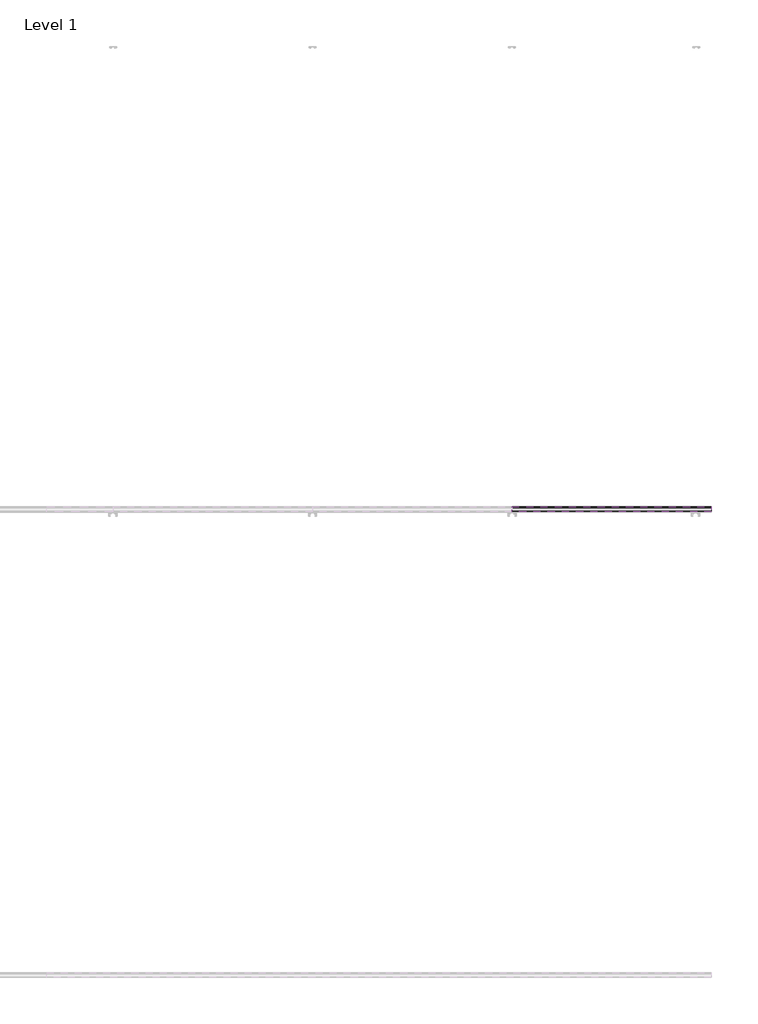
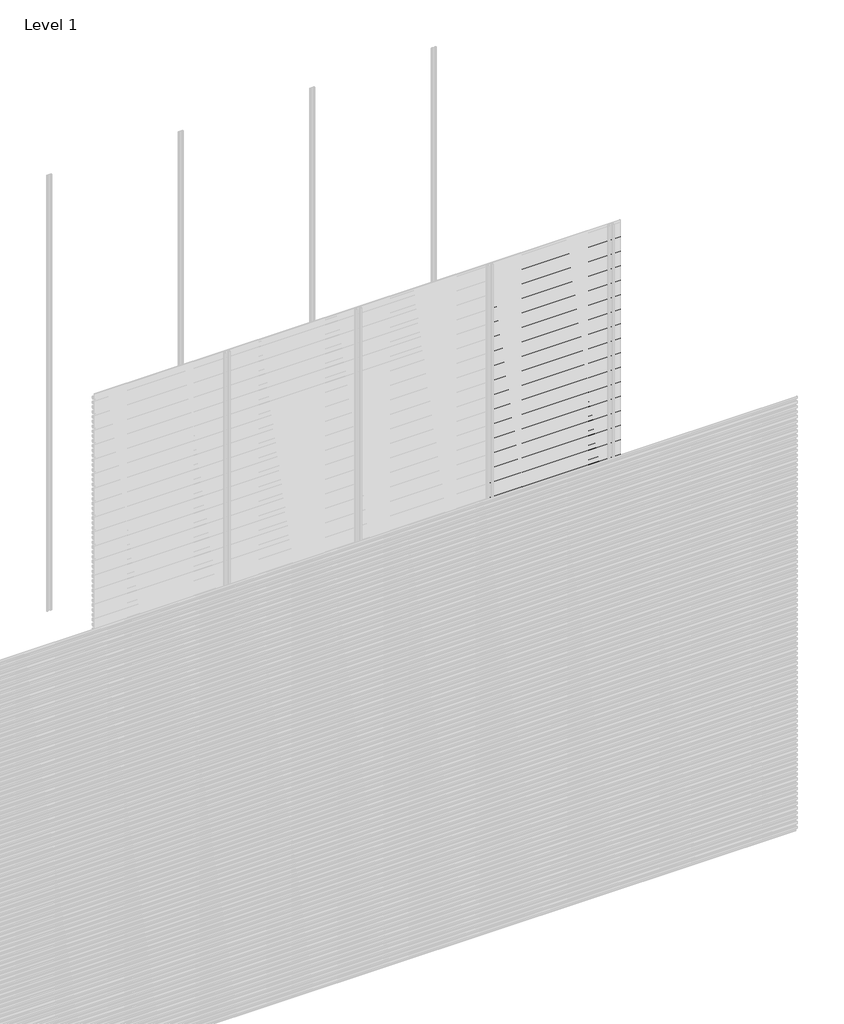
# One storey, part 87 of 96: 76 proxies.
"""IFC4 building model written with IfcOpenShell, lengths in millimetres."""

import ifcopenshell
import ifcopenshell.guid

model = None  # the IFC model being written
_history = None  # IfcOwnerHistory: only IFC2X3 demands one
_inside = {}  # id of a spatial element -> (the spatial element, [elements in it])
_under = {}  # id of a project, library or spatial element -> (it, [spatial elements below it])
_declared = {}  # id of a project -> (the project, [libraries it declares])
_typed = {}  # id of a type object -> (the type object, [elements of that type])
_made_of = {}  # id of a material, layer set ... -> (it, [elements and type objects made of it])


def new_model(schema):
    """Start an empty IFC model of exactly this schema.

    Asked for "IFC4X3", IfcOpenShell would pick the latest addendum, in which some entities
    have other attributes; the version numbers below select the first issue.
    IFC2X3 requires an IfcOwnerHistory on every rooted entity: one is made here for all.
    """
    global model, _history
    if schema == "IFC4X3":
        model = ifcopenshell.file(schema_version=(4, 3, 0, 0))
    else:
        model = ifcopenshell.file(schema=schema)
    _inside.clear()
    _under.clear()
    _declared.clear()
    _typed.clear()
    _made_of.clear()
    _history = None
    if model.schema == "IFC2X3":
        org = make("IfcOrganization", Name="unknown")
        user = make(
            "IfcPersonAndOrganization",
            ThePerson=make("IfcPerson", FamilyName="unknown"),
            TheOrganization=org,
        )
        app = make(
            "IfcApplication",
            ApplicationDeveloper=org,
            Version="unknown",
            ApplicationFullName="unknown",
            ApplicationIdentifier="unknown",
        )
        _history = make(
            "IfcOwnerHistory",
            OwningUser=user,
            OwningApplication=app,
            ChangeAction="ADDED",
            CreationDate=0,
        )
    return model


def make(cls, **values):
    """One entity of the class cls with the attributes given. An attribute that is None is left unset."""
    return model.create_entity(
        cls, **{name: value for name, value in values.items() if value is not None}
    )


def rooted(cls, **values):
    """An entity with a GlobalId (a new one), such as an element, a storey or a relation."""
    return make(cls, GlobalId=ifcopenshell.guid.new(), OwnerHistory=_history, **values)


def si_unit(unit_type, name, prefix=None):
    """IfcSIUnit, for example si_unit("LENGTHUNIT", "METRE", prefix="MILLI")."""
    return make("IfcSIUnit", UnitType=unit_type, Prefix=prefix, Name=name)


def assignment(units):
    """IfcUnitAssignment: the units of a project."""
    return None if units is None else make("IfcUnitAssignment", Units=units)


def point(xyz):
    """IfcCartesianPoint."""
    return None if xyz is None else make("IfcCartesianPoint", Coordinates=xyz)


def direction(xyz):
    """IfcDirection."""
    return None if xyz is None else make("IfcDirection", DirectionRatios=xyz)


def frame(location, z_axis=None, x_axis=None):
    """IfcAxis2Placement3D, a coordinate frame: its origin and axes. An axis left out is left unset."""
    return make(
        "IfcAxis2Placement3D",
        Location=point(location),
        Axis=direction(z_axis),
        RefDirection=direction(x_axis),
    )


def origin():
    """The frame at (0, 0, 0) with its axes left unset."""
    return frame((0.0, 0.0, 0.0))


def place(relative_to, where):
    """IfcLocalPlacement: puts the frame where relative to a parent placement (None: the world)."""
    return make(
        "IfcLocalPlacement", PlacementRelTo=relative_to, RelativePlacement=where
    )


def context(
    kind, dimensions, precision=None, world=None, true_north=None, identifier=None
):
    """IfcGeometricRepresentationContext, for example the 3D "Model" context."""
    return make(
        "IfcGeometricRepresentationContext",
        ContextIdentifier=identifier,
        ContextType=kind,
        CoordinateSpaceDimension=dimensions,
        Precision=precision,
        WorldCoordinateSystem=world,
        TrueNorth=true_north,
    )


def project(units=None, contexts=None):
    """IfcProject with its units and contexts."""
    return rooted(
        "IfcProject",
        Name="project",
        RepresentationContexts=contexts,
        UnitsInContext=assignment(units),
    )


def spatial(cls, under=None, at=None, **own):
    """A site, building, storey or space (cls), placed at a placement, below another one or the project."""
    s = rooted(cls, ObjectPlacement=at, **own)
    if under is not None:
        _under.setdefault(under.id(), (under, []))[1].append(s)
    return s


def polyline(points):
    """IfcPolyline through the points."""
    return make("IfcPolyline", Points=[point(p) for p in points])


def outline(outer, holes=None, kind="AREA"):
    """IfcArbitraryClosedProfileDef: a profile drawn as a closed curve; with holes, ...WithVoids."""
    if holes is None:
        return make("IfcArbitraryClosedProfileDef", ProfileType=kind, OuterCurve=outer)
    return make(
        "IfcArbitraryProfileDefWithVoids",
        ProfileType=kind,
        OuterCurve=outer,
        InnerCurves=holes,
    )


def extrude(swept, where, along, depth):
    """IfcExtrudedAreaSolid: the profile swept, set in the frame where, extruded along a direction by depth."""
    return make(
        "IfcExtrudedAreaSolid",
        SweptArea=swept,
        Position=where,
        ExtrudedDirection=direction(along),
        Depth=depth,
    )


def shape(context_of_items, identifier, shape_type, items):
    """IfcShapeRepresentation: the items that make up one representation, for example the "Body"."""
    return make(
        "IfcShapeRepresentation",
        ContextOfItems=context_of_items,
        RepresentationIdentifier=identifier,
        RepresentationType=shape_type,
        Items=items,
    )


def made_of(thing, what):
    """Note that an element or type object is made of a material, layer set ...; save() writes the relation."""
    if what is not None:
        _made_of.setdefault(what.id(), (what, []))[1].append(thing)
    return thing


def element(
    cls,
    number,
    at=None,
    inside=None,
    cuts=None,
    type_object=None,
    material=None,
    context=None,
    identifier="Body",
    shape_type=None,
    held_by="IfcProductDefinitionShape",
    body=None,
    shapes=None,
    **own,
):
    """One element of the class cls, such as IfcWall. Its Tag is "e" and its number.

    at: its placement. inside: the storey or other place that contains it. cuts: it is an
    opening in that element (IfcRelVoidsElement). A single representation is given by context,
    identifier, shape_type and body (its items); several are given by shapes. held_by: the class
    of the entity that holds the representations. save() writes the other relations.
    """
    e = rooted(cls, Tag="e%d" % number, ObjectPlacement=at, **own)
    if body is not None:
        shapes = [shape(context, identifier, shape_type, body)]
    if shapes is not None:
        e.Representation = make(held_by, Representations=shapes)
    if inside is not None:
        _inside.setdefault(inside.id(), (inside, []))[1].append(e)
    if cuts is not None:
        rooted(
            "IfcRelVoidsElement", RelatingBuildingElement=cuts, RelatedOpeningElement=e
        )
    if type_object is not None:
        _typed.setdefault(type_object.id(), (type_object, []))[1].append(e)
    return made_of(e, material)


def aggregate(whole, parts):
    """IfcRelAggregates: a whole, such as a stair, and the parts it consists of."""
    return rooted("IfcRelAggregates", RelatingObject=whole, RelatedObjects=parts)


def save(model, path):
    """Write the relations noted so far, then the file.

    IfcRelAggregates (storeys below a building ...), IfcRelContainedInSpatialStructure (elements
    in a storey), IfcRelDefinesByType, IfcRelAssociatesMaterial and IfcRelDeclares: one each for
    every whole, place, type object, material and project.
    """
    for whole, parts in _under.values():
        aggregate(whole, parts)
    for where, things in _inside.values():
        rooted(
            "IfcRelContainedInSpatialStructure",
            RelatedElements=things,
            RelatingStructure=where,
        )
    for kind, things in _typed.values():
        rooted("IfcRelDefinesByType", RelatedObjects=things, RelatingType=kind)
    for what, things in _made_of.values():
        rooted("IfcRelAssociatesMaterial", RelatedObjects=things, RelatingMaterial=what)
    for by, libraries in _declared.values():
        rooted("IfcRelDeclares", RelatingContext=by, RelatedDefinitions=libraries)
    model.write(path)


model = new_model("IFC4")

# Units and contexts
model_context = context("Model", 3, world=origin())
ifc_project = project(units=[si_unit("LENGTHUNIT", "METRE", prefix="MILLI")], contexts=[model_context])

# Site, building, storey
site = spatial("IfcSite", under=ifc_project)
building = spatial("IfcBuilding", under=site)
storey = spatial("IfcBuildingStorey", under=building, Name="Level 1", Elevation=0.0)

# Proxies
placement = place(None, origin())
element("IfcBuildingElementProxy", 1, Name="Wall Sweeps", at=placement, inside=storey, context=model_context, shape_type="SweptSolid", body=[
    extrude(outline(polyline([(-5977.6, 2871.8655033), (-5977.6, 2857.5779188), (-5982.4114965, 2854.8), (-5982.4114965, 2856.0701706), (-5978.85, 2858.1264016), (-5978.85, 2871.1437382), (-5998.0, 2882.2000799), (-5998.0, 2897.1), (-5996.75, 2897.1), (-5996.75, 2882.9217609), (-5977.6, 2871.8655033)])), frame((5142.8571429, 0.0, 0.0), z_axis=(1.0, 0.0, 0.0), x_axis=(0.0, 1.0, 0.0)), (0.0, 0.0, 1.0), 857.1428571),
])
element("IfcBuildingElementProxy", 2, Name="Wall Sweeps", at=placement, inside=storey, context=model_context, shape_type="SweptSolid", body=[
    extrude(outline(polyline([(-5977.6, 2838.5655033), (-5977.6, 2824.2779188), (-5982.4114965, 2821.5), (-5982.4114965, 2822.7701706), (-5978.85, 2824.8264016), (-5978.85, 2837.8437382), (-5998.0, 2848.9000799), (-5998.0, 2863.8), (-5996.75, 2863.8), (-5996.75, 2849.6217609), (-5977.6, 2838.5655033)])), frame((5142.8571429, 0.0, 0.0), z_axis=(1.0, 0.0, 0.0), x_axis=(0.0, 1.0, 0.0)), (0.0, 0.0, 1.0), 857.1428571),
])
element("IfcBuildingElementProxy", 3, Name="Wall Sweeps", at=placement, inside=storey, context=model_context, shape_type="SweptSolid", body=[
    extrude(outline(polyline([(-5977.6, 2805.2655033), (-5977.6, 2790.9779188), (-5982.4114965, 2788.2), (-5982.4114965, 2789.4701706), (-5978.85, 2791.5264016), (-5978.85, 2804.5437382), (-5998.0, 2815.6000799), (-5998.0, 2830.5), (-5996.75, 2830.5), (-5996.75, 2816.3217609), (-5977.6, 2805.2655033)])), frame((5142.8571429, 0.0, 0.0), z_axis=(1.0, 0.0, 0.0), x_axis=(0.0, 1.0, 0.0)), (0.0, 0.0, 1.0), 857.1428571),
])
element("IfcBuildingElementProxy", 4, Name="Wall Sweeps", at=placement, inside=storey, context=model_context, shape_type="SweptSolid", body=[
    extrude(outline(polyline([(-5977.6, 2771.9655033), (-5977.6, 2757.6779188), (-5982.4114965, 2754.9), (-5982.4114965, 2756.1701706), (-5978.85, 2758.2264016), (-5978.85, 2771.2437382), (-5998.0, 2782.3000799), (-5998.0, 2797.2), (-5996.75, 2797.2), (-5996.75, 2783.0217609), (-5977.6, 2771.9655033)])), frame((5142.8571429, 0.0, 0.0), z_axis=(1.0, 0.0, 0.0), x_axis=(0.0, 1.0, 0.0)), (0.0, 0.0, 1.0), 857.1428571),
])
element("IfcBuildingElementProxy", 5, Name="Wall Sweeps", at=placement, inside=storey, context=model_context, shape_type="SweptSolid", body=[
    extrude(outline(polyline([(-5977.6, 2738.6655033), (-5977.6, 2724.3779188), (-5982.4114965, 2721.6), (-5982.4114965, 2722.8701706), (-5978.85, 2724.9264016), (-5978.85, 2737.9437382), (-5998.0, 2749.0000799), (-5998.0, 2763.9), (-5996.75, 2763.9), (-5996.75, 2749.7217609), (-5977.6, 2738.6655033)])), frame((5142.8571429, 0.0, 0.0), z_axis=(1.0, 0.0, 0.0), x_axis=(0.0, 1.0, 0.0)), (0.0, 0.0, 1.0), 857.1428571),
])
element("IfcBuildingElementProxy", 6, Name="Wall Sweeps", at=placement, inside=storey, context=model_context, shape_type="SweptSolid", body=[
    extrude(outline(polyline([(-5977.6, 2705.3655033), (-5977.6, 2691.0779188), (-5982.4114965, 2688.3), (-5982.4114965, 2689.5701706), (-5978.85, 2691.6264016), (-5978.85, 2704.6437382), (-5998.0, 2715.7000799), (-5998.0, 2730.6), (-5996.75, 2730.6), (-5996.75, 2716.4217609), (-5977.6, 2705.3655033)])), frame((5142.8571429, 0.0, 0.0), z_axis=(1.0, 0.0, 0.0), x_axis=(0.0, 1.0, 0.0)), (0.0, 0.0, 1.0), 857.1428571),
])
element("IfcBuildingElementProxy", 7, Name="Wall Sweeps", at=placement, inside=storey, context=model_context, shape_type="SweptSolid", body=[
    extrude(outline(polyline([(-5977.6, 2672.0655033), (-5977.6, 2657.7779188), (-5982.4114965, 2655.0), (-5982.4114965, 2656.2701706), (-5978.85, 2658.3264016), (-5978.85, 2671.3437382), (-5998.0, 2682.4000799), (-5998.0, 2697.3), (-5996.75, 2697.3), (-5996.75, 2683.1217609), (-5977.6, 2672.0655033)])), frame((5142.8571429, 0.0, 0.0), z_axis=(1.0, 0.0, 0.0), x_axis=(0.0, 1.0, 0.0)), (0.0, 0.0, 1.0), 857.1428571),
])
element("IfcBuildingElementProxy", 8, Name="Wall Sweeps", at=placement, inside=storey, context=model_context, shape_type="SweptSolid", body=[
    extrude(outline(polyline([(-5977.6, 2638.7655033), (-5977.6, 2624.4779188), (-5982.4114965, 2621.7), (-5982.4114965, 2622.9701706), (-5978.85, 2625.0264016), (-5978.85, 2638.0437382), (-5998.0, 2649.1000799), (-5998.0, 2664.0), (-5996.75, 2664.0), (-5996.75, 2649.8217609), (-5977.6, 2638.7655033)])), frame((5142.8571429, 0.0, 0.0), z_axis=(1.0, 0.0, 0.0), x_axis=(0.0, 1.0, 0.0)), (0.0, 0.0, 1.0), 857.1428571),
])
element("IfcBuildingElementProxy", 9, Name="Wall Sweeps", at=placement, inside=storey, context=model_context, shape_type="SweptSolid", body=[
    extrude(outline(polyline([(-5977.6, 2605.4655033), (-5977.6, 2591.1779188), (-5982.4114965, 2588.4), (-5982.4114965, 2589.6701706), (-5978.85, 2591.7264016), (-5978.85, 2604.7437382), (-5998.0, 2615.8000799), (-5998.0, 2630.7), (-5996.75, 2630.7), (-5996.75, 2616.5217609), (-5977.6, 2605.4655033)])), frame((5142.8571429, 0.0, 0.0), z_axis=(1.0, 0.0, 0.0), x_axis=(0.0, 1.0, 0.0)), (0.0, 0.0, 1.0), 857.1428571),
])
element("IfcBuildingElementProxy", 10, Name="Wall Sweeps", at=placement, inside=storey, context=model_context, shape_type="SweptSolid", body=[
    extrude(outline(polyline([(-5977.6, 2572.1655033), (-5977.6, 2557.8779188), (-5982.4114965, 2555.1), (-5982.4114965, 2556.3701706), (-5978.85, 2558.4264016), (-5978.85, 2571.4437382), (-5998.0, 2582.5000799), (-5998.0, 2597.4), (-5996.75, 2597.4), (-5996.75, 2583.2217609), (-5977.6, 2572.1655033)])), frame((5142.8571429, 0.0, 0.0), z_axis=(1.0, 0.0, 0.0), x_axis=(0.0, 1.0, 0.0)), (0.0, 0.0, 1.0), 857.1428571),
])
element("IfcBuildingElementProxy", 11, Name="Wall Sweeps", at=placement, inside=storey, context=model_context, shape_type="SweptSolid", body=[
    extrude(outline(polyline([(-5977.6, 2538.8655033), (-5977.6, 2524.5779188), (-5982.4114965, 2521.8), (-5982.4114965, 2523.0701706), (-5978.85, 2525.1264016), (-5978.85, 2538.1437382), (-5998.0, 2549.2000799), (-5998.0, 2564.1), (-5996.75, 2564.1), (-5996.75, 2549.9217609), (-5977.6, 2538.8655033)])), frame((5142.8571429, 0.0, 0.0), z_axis=(1.0, 0.0, 0.0), x_axis=(0.0, 1.0, 0.0)), (0.0, 0.0, 1.0), 857.1428571),
])
element("IfcBuildingElementProxy", 12, Name="Wall Sweeps", at=placement, inside=storey, context=model_context, shape_type="SweptSolid", body=[
    extrude(outline(polyline([(-5977.6, 2505.5655033), (-5977.6, 2491.2779188), (-5982.4114965, 2488.5), (-5982.4114965, 2489.7701706), (-5978.85, 2491.8264016), (-5978.85, 2504.8437382), (-5998.0, 2515.9000799), (-5998.0, 2530.8), (-5996.75, 2530.8), (-5996.75, 2516.6217609), (-5977.6, 2505.5655033)])), frame((5142.8571429, 0.0, 0.0), z_axis=(1.0, 0.0, 0.0), x_axis=(0.0, 1.0, 0.0)), (0.0, 0.0, 1.0), 857.1428571),
])
element("IfcBuildingElementProxy", 13, Name="Wall Sweeps", at=placement, inside=storey, context=model_context, shape_type="SweptSolid", body=[
    extrude(outline(polyline([(-5977.6, 2472.2655033), (-5977.6, 2457.9779188), (-5982.4114965, 2455.2), (-5982.4114965, 2456.4701706), (-5978.85, 2458.5264016), (-5978.85, 2471.5437382), (-5998.0, 2482.6000799), (-5998.0, 2497.5), (-5996.75, 2497.5), (-5996.75, 2483.3217609), (-5977.6, 2472.2655033)])), frame((5142.8571429, 0.0, 0.0), z_axis=(1.0, 0.0, 0.0), x_axis=(0.0, 1.0, 0.0)), (0.0, 0.0, 1.0), 857.1428571),
])
element("IfcBuildingElementProxy", 14, Name="Wall Sweeps", at=placement, inside=storey, context=model_context, shape_type="SweptSolid", body=[
    extrude(outline(polyline([(-5977.6, 2438.9655033), (-5977.6, 2424.6779188), (-5982.4114965, 2421.9), (-5982.4114965, 2423.1701706), (-5978.85, 2425.2264016), (-5978.85, 2438.2437382), (-5998.0, 2449.3000799), (-5998.0, 2464.2), (-5996.75, 2464.2), (-5996.75, 2450.0217609), (-5977.6, 2438.9655033)])), frame((5142.8571429, 0.0, 0.0), z_axis=(1.0, 0.0, 0.0), x_axis=(0.0, 1.0, 0.0)), (0.0, 0.0, 1.0), 857.1428571),
])
element("IfcBuildingElementProxy", 15, Name="Wall Sweeps", at=placement, inside=storey, context=model_context, shape_type="SweptSolid", body=[
    extrude(outline(polyline([(-5977.6, 2405.6655033), (-5977.6, 2391.3779188), (-5982.4114965, 2388.6), (-5982.4114965, 2389.8701706), (-5978.85, 2391.9264016), (-5978.85, 2404.9437382), (-5998.0, 2416.0000799), (-5998.0, 2430.9), (-5996.75, 2430.9), (-5996.75, 2416.7217609), (-5977.6, 2405.6655033)])), frame((5142.8571429, 0.0, 0.0), z_axis=(1.0, 0.0, 0.0), x_axis=(0.0, 1.0, 0.0)), (0.0, 0.0, 1.0), 857.1428571),
])
element("IfcBuildingElementProxy", 16, Name="Wall Sweeps", at=placement, inside=storey, context=model_context, shape_type="SweptSolid", body=[
    extrude(outline(polyline([(-5977.6, 2372.3655033), (-5977.6, 2358.0779188), (-5982.4114965, 2355.3), (-5982.4114965, 2356.5701706), (-5978.85, 2358.6264016), (-5978.85, 2371.6437382), (-5998.0, 2382.7000799), (-5998.0, 2397.6), (-5996.75, 2397.6), (-5996.75, 2383.4217609), (-5977.6, 2372.3655033)])), frame((5142.8571429, 0.0, 0.0), z_axis=(1.0, 0.0, 0.0), x_axis=(0.0, 1.0, 0.0)), (0.0, 0.0, 1.0), 857.1428571),
])
element("IfcBuildingElementProxy", 17, Name="Wall Sweeps", at=placement, inside=storey, context=model_context, shape_type="SweptSolid", body=[
    extrude(outline(polyline([(-5977.6, 2339.0655033), (-5977.6, 2324.7779188), (-5982.4114965, 2322.0), (-5982.4114965, 2323.2701706), (-5978.85, 2325.3264016), (-5978.85, 2338.3437382), (-5998.0, 2349.4000799), (-5998.0, 2364.3), (-5996.75, 2364.3), (-5996.75, 2350.1217609), (-5977.6, 2339.0655033)])), frame((5142.8571429, 0.0, 0.0), z_axis=(1.0, 0.0, 0.0), x_axis=(0.0, 1.0, 0.0)), (0.0, 0.0, 1.0), 857.1428571),
])
element("IfcBuildingElementProxy", 18, Name="Wall Sweeps", at=placement, inside=storey, context=model_context, shape_type="SweptSolid", body=[
    extrude(outline(polyline([(-5977.6, 2305.7655033), (-5977.6, 2291.4779188), (-5982.4114965, 2288.7), (-5982.4114965, 2289.9701706), (-5978.85, 2292.0264016), (-5978.85, 2305.0437382), (-5998.0, 2316.1000799), (-5998.0, 2331.0), (-5996.75, 2331.0), (-5996.75, 2316.8217609), (-5977.6, 2305.7655033)])), frame((5142.8571429, 0.0, 0.0), z_axis=(1.0, 0.0, 0.0), x_axis=(0.0, 1.0, 0.0)), (0.0, 0.0, 1.0), 857.1428571),
])
element("IfcBuildingElementProxy", 19, Name="Wall Sweeps", at=placement, inside=storey, context=model_context, shape_type="SweptSolid", body=[
    extrude(outline(polyline([(-5977.6, 2272.4655033), (-5977.6, 2258.1779188), (-5982.4114965, 2255.4), (-5982.4114965, 2256.6701706), (-5978.85, 2258.7264016), (-5978.85, 2271.7437382), (-5998.0, 2282.8000799), (-5998.0, 2297.7), (-5996.75, 2297.7), (-5996.75, 2283.5217609), (-5977.6, 2272.4655033)])), frame((5142.8571429, 0.0, 0.0), z_axis=(1.0, 0.0, 0.0), x_axis=(0.0, 1.0, 0.0)), (0.0, 0.0, 1.0), 857.1428571),
])
element("IfcBuildingElementProxy", 20, Name="Wall Sweeps", at=placement, inside=storey, context=model_context, shape_type="SweptSolid", body=[
    extrude(outline(polyline([(-5977.6, 2239.1655033), (-5977.6, 2224.8779188), (-5982.4114965, 2222.1), (-5982.4114965, 2223.3701706), (-5978.85, 2225.4264016), (-5978.85, 2238.4437382), (-5998.0, 2249.5000799), (-5998.0, 2264.4), (-5996.75, 2264.4), (-5996.75, 2250.2217609), (-5977.6, 2239.1655033)])), frame((5142.8571429, 0.0, 0.0), z_axis=(1.0, 0.0, 0.0), x_axis=(0.0, 1.0, 0.0)), (0.0, 0.0, 1.0), 857.1428571),
])
element("IfcBuildingElementProxy", 21, Name="Wall Sweeps", at=placement, inside=storey, context=model_context, shape_type="SweptSolid", body=[
    extrude(outline(polyline([(-5977.6, 2205.8655033), (-5977.6, 2191.5779188), (-5982.4114965, 2188.8), (-5982.4114965, 2190.0701706), (-5978.85, 2192.1264016), (-5978.85, 2205.1437382), (-5998.0, 2216.2000799), (-5998.0, 2231.1), (-5996.75, 2231.1), (-5996.75, 2216.9217609), (-5977.6, 2205.8655033)])), frame((5142.8571429, 0.0, 0.0), z_axis=(1.0, 0.0, 0.0), x_axis=(0.0, 1.0, 0.0)), (0.0, 0.0, 1.0), 857.1428571),
])
element("IfcBuildingElementProxy", 22, Name="Wall Sweeps", at=placement, inside=storey, context=model_context, shape_type="SweptSolid", body=[
    extrude(outline(polyline([(-5977.6, 2172.5655033), (-5977.6, 2158.2779188), (-5982.4114965, 2155.5), (-5982.4114965, 2156.7701706), (-5978.85, 2158.8264016), (-5978.85, 2171.8437382), (-5998.0, 2182.9000799), (-5998.0, 2197.8), (-5996.75, 2197.8), (-5996.75, 2183.6217609), (-5977.6, 2172.5655033)])), frame((5142.8571429, 0.0, 0.0), z_axis=(1.0, 0.0, 0.0), x_axis=(0.0, 1.0, 0.0)), (0.0, 0.0, 1.0), 857.1428571),
])
element("IfcBuildingElementProxy", 23, Name="Wall Sweeps", at=placement, inside=storey, context=model_context, shape_type="SweptSolid", body=[
    extrude(outline(polyline([(-5977.6, 2139.2655033), (-5977.6, 2124.9779188), (-5982.4114965, 2122.2), (-5982.4114965, 2123.4701706), (-5978.85, 2125.5264016), (-5978.85, 2138.5437382), (-5998.0, 2149.6000799), (-5998.0, 2164.5), (-5996.75, 2164.5), (-5996.75, 2150.3217609), (-5977.6, 2139.2655033)])), frame((5142.8571429, 0.0, 0.0), z_axis=(1.0, 0.0, 0.0), x_axis=(0.0, 1.0, 0.0)), (0.0, 0.0, 1.0), 857.1428571),
])
element("IfcBuildingElementProxy", 24, Name="Wall Sweeps", at=placement, inside=storey, context=model_context, shape_type="SweptSolid", body=[
    extrude(outline(polyline([(-5977.6, 2105.9655033), (-5977.6, 2091.6779188), (-5982.4114965, 2088.9), (-5982.4114965, 2090.1701706), (-5978.85, 2092.2264016), (-5978.85, 2105.2437382), (-5998.0, 2116.3000799), (-5998.0, 2131.2), (-5996.75, 2131.2), (-5996.75, 2117.0217609), (-5977.6, 2105.9655033)])), frame((5142.8571429, 0.0, 0.0), z_axis=(1.0, 0.0, 0.0), x_axis=(0.0, 1.0, 0.0)), (0.0, 0.0, 1.0), 857.1428571),
])
element("IfcBuildingElementProxy", 25, Name="Wall Sweeps", at=placement, inside=storey, context=model_context, shape_type="SweptSolid", body=[
    extrude(outline(polyline([(-5977.6, 2072.6655033), (-5977.6, 2058.3779188), (-5982.4114965, 2055.6), (-5982.4114965, 2056.8701706), (-5978.85, 2058.9264016), (-5978.85, 2071.9437382), (-5998.0, 2083.0000799), (-5998.0, 2097.9), (-5996.75, 2097.9), (-5996.75, 2083.7217609), (-5977.6, 2072.6655033)])), frame((5142.8571429, 0.0, 0.0), z_axis=(1.0, 0.0, 0.0), x_axis=(0.0, 1.0, 0.0)), (0.0, 0.0, 1.0), 857.1428571),
])
element("IfcBuildingElementProxy", 26, Name="Wall Sweeps", at=placement, inside=storey, context=model_context, shape_type="SweptSolid", body=[
    extrude(outline(polyline([(-5977.6, 2039.3655033), (-5977.6, 2025.0779188), (-5982.4114965, 2022.3), (-5982.4114965, 2023.5701706), (-5978.85, 2025.6264016), (-5978.85, 2038.6437382), (-5998.0, 2049.7000799), (-5998.0, 2064.6), (-5996.75, 2064.6), (-5996.75, 2050.4217609), (-5977.6, 2039.3655033)])), frame((5142.8571429, 0.0, 0.0), z_axis=(1.0, 0.0, 0.0), x_axis=(0.0, 1.0, 0.0)), (0.0, 0.0, 1.0), 857.1428571),
])
element("IfcBuildingElementProxy", 27, Name="Wall Sweeps", at=placement, inside=storey, context=model_context, shape_type="SweptSolid", body=[
    extrude(outline(polyline([(-5977.6, 2006.0655033), (-5977.6, 1991.7779188), (-5982.4114965, 1989.0), (-5982.4114965, 1990.2701706), (-5978.85, 1992.3264016), (-5978.85, 2005.3437382), (-5998.0, 2016.4000799), (-5998.0, 2031.3), (-5996.75, 2031.3), (-5996.75, 2017.1217609), (-5977.6, 2006.0655033)])), frame((5142.8571429, 0.0, 0.0), z_axis=(1.0, 0.0, 0.0), x_axis=(0.0, 1.0, 0.0)), (0.0, 0.0, 1.0), 857.1428571),
])
element("IfcBuildingElementProxy", 28, Name="Wall Sweeps", at=placement, inside=storey, context=model_context, shape_type="SweptSolid", body=[
    extrude(outline(polyline([(-5977.6, 1972.7655033), (-5977.6, 1958.4779188), (-5982.4114965, 1955.7), (-5982.4114965, 1956.9701706), (-5978.85, 1959.0264016), (-5978.85, 1972.0437382), (-5998.0, 1983.1000799), (-5998.0, 1998.0), (-5996.75, 1998.0), (-5996.75, 1983.8217609), (-5977.6, 1972.7655033)])), frame((5142.8571429, 0.0, 0.0), z_axis=(1.0, 0.0, 0.0), x_axis=(0.0, 1.0, 0.0)), (0.0, 0.0, 1.0), 857.1428571),
])
element("IfcBuildingElementProxy", 29, Name="Wall Sweeps", at=placement, inside=storey, context=model_context, shape_type="SweptSolid", body=[
    extrude(outline(polyline([(-5977.6, 1939.4655033), (-5977.6, 1925.1779188), (-5982.4114965, 1922.4), (-5982.4114965, 1923.6701706), (-5978.85, 1925.7264016), (-5978.85, 1938.7437382), (-5998.0, 1949.8000799), (-5998.0, 1964.7), (-5996.75, 1964.7), (-5996.75, 1950.5217609), (-5977.6, 1939.4655033)])), frame((5142.8571429, 0.0, 0.0), z_axis=(1.0, 0.0, 0.0), x_axis=(0.0, 1.0, 0.0)), (0.0, 0.0, 1.0), 857.1428571),
])
element("IfcBuildingElementProxy", 30, Name="Wall Sweeps", at=placement, inside=storey, context=model_context, shape_type="SweptSolid", body=[
    extrude(outline(polyline([(-5977.6, 1906.1655033), (-5977.6, 1891.8779188), (-5982.4114965, 1889.1), (-5982.4114965, 1890.3701706), (-5978.85, 1892.4264016), (-5978.85, 1905.4437382), (-5998.0, 1916.5000799), (-5998.0, 1931.4), (-5996.75, 1931.4), (-5996.75, 1917.2217609), (-5977.6, 1906.1655033)])), frame((5142.8571429, 0.0, 0.0), z_axis=(1.0, 0.0, 0.0), x_axis=(0.0, 1.0, 0.0)), (0.0, 0.0, 1.0), 857.1428571),
])
element("IfcBuildingElementProxy", 31, Name="Wall Sweeps", at=placement, inside=storey, context=model_context, shape_type="SweptSolid", body=[
    extrude(outline(polyline([(-5977.6, 1872.8655033), (-5977.6, 1858.5779188), (-5982.4114965, 1855.8), (-5982.4114965, 1857.0701706), (-5978.85, 1859.1264016), (-5978.85, 1872.1437382), (-5998.0, 1883.2000799), (-5998.0, 1898.1), (-5996.75, 1898.1), (-5996.75, 1883.9217609), (-5977.6, 1872.8655033)])), frame((5142.8571429, 0.0, 0.0), z_axis=(1.0, 0.0, 0.0), x_axis=(0.0, 1.0, 0.0)), (0.0, 0.0, 1.0), 857.1428571),
])
element("IfcBuildingElementProxy", 32, Name="Wall Sweeps", at=placement, inside=storey, context=model_context, shape_type="SweptSolid", body=[
    extrude(outline(polyline([(-5977.6, 1839.5655033), (-5977.6, 1825.2779188), (-5982.4114965, 1822.5), (-5982.4114965, 1823.7701706), (-5978.85, 1825.8264016), (-5978.85, 1838.8437382), (-5998.0, 1849.9000799), (-5998.0, 1864.8), (-5996.75, 1864.8), (-5996.75, 1850.6217609), (-5977.6, 1839.5655033)])), frame((5142.8571429, 0.0, 0.0), z_axis=(1.0, 0.0, 0.0), x_axis=(0.0, 1.0, 0.0)), (0.0, 0.0, 1.0), 857.1428571),
])
element("IfcBuildingElementProxy", 33, Name="Wall Sweeps", at=placement, inside=storey, context=model_context, shape_type="SweptSolid", body=[
    extrude(outline(polyline([(-5977.6, 1806.2655033), (-5977.6, 1791.9779188), (-5982.4114965, 1789.2), (-5982.4114965, 1790.4701706), (-5978.85, 1792.5264016), (-5978.85, 1805.5437382), (-5998.0, 1816.6000799), (-5998.0, 1831.5), (-5996.75, 1831.5), (-5996.75, 1817.3217609), (-5977.6, 1806.2655033)])), frame((5142.8571429, 0.0, 0.0), z_axis=(1.0, 0.0, 0.0), x_axis=(0.0, 1.0, 0.0)), (0.0, 0.0, 1.0), 857.1428571),
])
element("IfcBuildingElementProxy", 34, Name="Wall Sweeps", at=placement, inside=storey, context=model_context, shape_type="SweptSolid", body=[
    extrude(outline(polyline([(-5977.6, 1772.9655033), (-5977.6, 1758.6779188), (-5982.4114965, 1755.9), (-5982.4114965, 1757.1701706), (-5978.85, 1759.2264016), (-5978.85, 1772.2437382), (-5998.0, 1783.3000799), (-5998.0, 1798.2), (-5996.75, 1798.2), (-5996.75, 1784.0217609), (-5977.6, 1772.9655033)])), frame((5142.8571429, 0.0, 0.0), z_axis=(1.0, 0.0, 0.0), x_axis=(0.0, 1.0, 0.0)), (0.0, 0.0, 1.0), 857.1428571),
])
element("IfcBuildingElementProxy", 35, Name="Wall Sweeps", at=placement, inside=storey, context=model_context, shape_type="SweptSolid", body=[
    extrude(outline(polyline([(-5977.6, 1739.6655033), (-5977.6, 1725.3779188), (-5982.4114965, 1722.6), (-5982.4114965, 1723.8701706), (-5978.85, 1725.9264016), (-5978.85, 1738.9437382), (-5998.0, 1750.0000799), (-5998.0, 1764.9), (-5996.75, 1764.9), (-5996.75, 1750.7217609), (-5977.6, 1739.6655033)])), frame((5142.8571429, 0.0, 0.0), z_axis=(1.0, 0.0, 0.0), x_axis=(0.0, 1.0, 0.0)), (0.0, 0.0, 1.0), 857.1428571),
])
element("IfcBuildingElementProxy", 36, Name="Wall Sweeps", at=placement, inside=storey, context=model_context, shape_type="SweptSolid", body=[
    extrude(outline(polyline([(-5977.6, 1706.3655033), (-5977.6, 1692.0779188), (-5982.4114965, 1689.3), (-5982.4114965, 1690.5701706), (-5978.85, 1692.6264016), (-5978.85, 1705.6437382), (-5998.0, 1716.7000799), (-5998.0, 1731.6), (-5996.75, 1731.6), (-5996.75, 1717.4217609), (-5977.6, 1706.3655033)])), frame((5142.8571429, 0.0, 0.0), z_axis=(1.0, 0.0, 0.0), x_axis=(0.0, 1.0, 0.0)), (0.0, 0.0, 1.0), 857.1428571),
])
element("IfcBuildingElementProxy", 37, Name="Wall Sweeps", at=placement, inside=storey, context=model_context, shape_type="SweptSolid", body=[
    extrude(outline(polyline([(-5977.6, 1673.0655033), (-5977.6, 1658.7779188), (-5982.4114965, 1656.0), (-5982.4114965, 1657.2701706), (-5978.85, 1659.3264016), (-5978.85, 1672.3437382), (-5998.0, 1683.4000799), (-5998.0, 1698.3), (-5996.75, 1698.3), (-5996.75, 1684.1217609), (-5977.6, 1673.0655033)])), frame((5142.8571429, 0.0, 0.0), z_axis=(1.0, 0.0, 0.0), x_axis=(0.0, 1.0, 0.0)), (0.0, 0.0, 1.0), 857.1428571),
])
element("IfcBuildingElementProxy", 38, Name="Wall Sweeps", at=placement, inside=storey, context=model_context, shape_type="SweptSolid", body=[
    extrude(outline(polyline([(-5977.6, 1639.7655033), (-5977.6, 1625.4779188), (-5982.4114965, 1622.7), (-5982.4114965, 1623.9701706), (-5978.85, 1626.0264016), (-5978.85, 1639.0437382), (-5998.0, 1650.1000799), (-5998.0, 1665.0), (-5996.75, 1665.0), (-5996.75, 1650.8217609), (-5977.6, 1639.7655033)])), frame((5142.8571429, 0.0, 0.0), z_axis=(1.0, 0.0, 0.0), x_axis=(0.0, 1.0, 0.0)), (0.0, 0.0, 1.0), 857.1428571),
])
element("IfcBuildingElementProxy", 39, Name="Wall Sweeps", at=placement, inside=storey, context=model_context, shape_type="SweptSolid", body=[
    extrude(outline(polyline([(-5977.6, 1606.4655033), (-5977.6, 1592.1779188), (-5982.4114965, 1589.4), (-5982.4114965, 1590.6701706), (-5978.85, 1592.7264016), (-5978.85, 1605.7437382), (-5998.0, 1616.8000799), (-5998.0, 1631.7), (-5996.75, 1631.7), (-5996.75, 1617.5217609), (-5977.6, 1606.4655033)])), frame((5142.8571429, 0.0, 0.0), z_axis=(1.0, 0.0, 0.0), x_axis=(0.0, 1.0, 0.0)), (0.0, 0.0, 1.0), 857.1428571),
])
element("IfcBuildingElementProxy", 40, Name="Wall Sweeps", at=placement, inside=storey, context=model_context, shape_type="SweptSolid", body=[
    extrude(outline(polyline([(-5977.6, 1573.1655033), (-5977.6, 1558.8779188), (-5982.4114965, 1556.1), (-5982.4114965, 1557.3701706), (-5978.85, 1559.4264016), (-5978.85, 1572.4437382), (-5998.0, 1583.5000799), (-5998.0, 1598.4), (-5996.75, 1598.4), (-5996.75, 1584.2217609), (-5977.6, 1573.1655033)])), frame((5142.8571429, 0.0, 0.0), z_axis=(1.0, 0.0, 0.0), x_axis=(0.0, 1.0, 0.0)), (0.0, 0.0, 1.0), 857.1428571),
])
element("IfcBuildingElementProxy", 41, Name="Wall Sweeps", at=placement, inside=storey, context=model_context, shape_type="SweptSolid", body=[
    extrude(outline(polyline([(-5977.6, 1539.8655033), (-5977.6, 1525.5779188), (-5982.4114965, 1522.8), (-5982.4114965, 1524.0701706), (-5978.85, 1526.1264016), (-5978.85, 1539.1437382), (-5998.0, 1550.2000799), (-5998.0, 1565.1), (-5996.75, 1565.1), (-5996.75, 1550.9217609), (-5977.6, 1539.8655033)])), frame((5142.8571429, 0.0, 0.0), z_axis=(1.0, 0.0, 0.0), x_axis=(0.0, 1.0, 0.0)), (0.0, 0.0, 1.0), 857.1428571),
])
element("IfcBuildingElementProxy", 42, Name="Wall Sweeps", at=placement, inside=storey, context=model_context, shape_type="SweptSolid", body=[
    extrude(outline(polyline([(-5977.6, 1506.5655033), (-5977.6, 1492.2779188), (-5982.4114965, 1489.5), (-5982.4114965, 1490.7701706), (-5978.85, 1492.8264016), (-5978.85, 1505.8437382), (-5998.0, 1516.9000799), (-5998.0, 1531.8), (-5996.75, 1531.8), (-5996.75, 1517.6217609), (-5977.6, 1506.5655033)])), frame((5142.8571429, 0.0, 0.0), z_axis=(1.0, 0.0, 0.0), x_axis=(0.0, 1.0, 0.0)), (0.0, 0.0, 1.0), 857.1428571),
])
element("IfcBuildingElementProxy", 43, Name="Wall Sweeps", at=placement, inside=storey, context=model_context, shape_type="SweptSolid", body=[
    extrude(outline(polyline([(-5977.6, 1473.2655033), (-5977.6, 1458.9779188), (-5982.4114965, 1456.2), (-5982.4114965, 1457.4701706), (-5978.85, 1459.5264016), (-5978.85, 1472.5437382), (-5998.0, 1483.6000799), (-5998.0, 1498.5), (-5996.75, 1498.5), (-5996.75, 1484.3217609), (-5977.6, 1473.2655033)])), frame((5142.8571429, 0.0, 0.0), z_axis=(1.0, 0.0, 0.0), x_axis=(0.0, 1.0, 0.0)), (0.0, 0.0, 1.0), 857.1428571),
])
element("IfcBuildingElementProxy", 44, Name="Wall Sweeps", at=placement, inside=storey, context=model_context, shape_type="SweptSolid", body=[
    extrude(outline(polyline([(-5977.6, 1439.9655033), (-5977.6, 1425.6779188), (-5982.4114965, 1422.9), (-5982.4114965, 1424.1701706), (-5978.85, 1426.2264016), (-5978.85, 1439.2437382), (-5998.0, 1450.3000799), (-5998.0, 1465.2), (-5996.75, 1465.2), (-5996.75, 1451.0217609), (-5977.6, 1439.9655033)])), frame((5142.8571429, 0.0, 0.0), z_axis=(1.0, 0.0, 0.0), x_axis=(0.0, 1.0, 0.0)), (0.0, 0.0, 1.0), 857.1428571),
])
element("IfcBuildingElementProxy", 45, Name="Wall Sweeps", at=placement, inside=storey, context=model_context, shape_type="SweptSolid", body=[
    extrude(outline(polyline([(-5977.6, 1406.6655033), (-5977.6, 1392.3779188), (-5982.4114965, 1389.6), (-5982.4114965, 1390.8701706), (-5978.85, 1392.9264016), (-5978.85, 1405.9437382), (-5998.0, 1417.0000799), (-5998.0, 1431.9), (-5996.75, 1431.9), (-5996.75, 1417.7217609), (-5977.6, 1406.6655033)])), frame((5142.8571429, 0.0, 0.0), z_axis=(1.0, 0.0, 0.0), x_axis=(0.0, 1.0, 0.0)), (0.0, 0.0, 1.0), 857.1428571),
])
element("IfcBuildingElementProxy", 46, Name="Wall Sweeps", at=placement, inside=storey, context=model_context, shape_type="SweptSolid", body=[
    extrude(outline(polyline([(-5977.6, 1373.3655033), (-5977.6, 1359.0779188), (-5982.4114965, 1356.3), (-5982.4114965, 1357.5701706), (-5978.85, 1359.6264016), (-5978.85, 1372.6437382), (-5998.0, 1383.7000799), (-5998.0, 1398.6), (-5996.75, 1398.6), (-5996.75, 1384.4217609), (-5977.6, 1373.3655033)])), frame((5142.8571429, 0.0, 0.0), z_axis=(1.0, 0.0, 0.0), x_axis=(0.0, 1.0, 0.0)), (0.0, 0.0, 1.0), 857.1428571),
])
element("IfcBuildingElementProxy", 47, Name="Wall Sweeps", at=placement, inside=storey, context=model_context, shape_type="SweptSolid", body=[
    extrude(outline(polyline([(-5977.6, 1340.0655033), (-5977.6, 1325.7779188), (-5982.4114965, 1323.0), (-5982.4114965, 1324.2701706), (-5978.85, 1326.3264016), (-5978.85, 1339.3437382), (-5998.0, 1350.4000799), (-5998.0, 1365.3), (-5996.75, 1365.3), (-5996.75, 1351.1217609), (-5977.6, 1340.0655033)])), frame((5142.8571429, 0.0, 0.0), z_axis=(1.0, 0.0, 0.0), x_axis=(0.0, 1.0, 0.0)), (0.0, 0.0, 1.0), 857.1428571),
])
element("IfcBuildingElementProxy", 48, Name="Wall Sweeps", at=placement, inside=storey, context=model_context, shape_type="SweptSolid", body=[
    extrude(outline(polyline([(-5977.6, 1306.7655033), (-5977.6, 1292.4779188), (-5982.4114965, 1289.7), (-5982.4114965, 1290.9701706), (-5978.85, 1293.0264016), (-5978.85, 1306.0437382), (-5998.0, 1317.1000799), (-5998.0, 1332.0), (-5996.75, 1332.0), (-5996.75, 1317.8217609), (-5977.6, 1306.7655033)])), frame((5142.8571429, 0.0, 0.0), z_axis=(1.0, 0.0, 0.0), x_axis=(0.0, 1.0, 0.0)), (0.0, 0.0, 1.0), 857.1428571),
])
element("IfcBuildingElementProxy", 49, Name="Wall Sweeps", at=placement, inside=storey, context=model_context, shape_type="SweptSolid", body=[
    extrude(outline(polyline([(-5977.6, 1273.4655033), (-5977.6, 1259.1779188), (-5982.4114965, 1256.4), (-5982.4114965, 1257.6701706), (-5978.85, 1259.7264016), (-5978.85, 1272.7437382), (-5998.0, 1283.8000799), (-5998.0, 1298.7), (-5996.75, 1298.7), (-5996.75, 1284.5217609), (-5977.6, 1273.4655033)])), frame((5142.8571429, 0.0, 0.0), z_axis=(1.0, 0.0, 0.0), x_axis=(0.0, 1.0, 0.0)), (0.0, 0.0, 1.0), 857.1428571),
])
element("IfcBuildingElementProxy", 50, Name="Wall Sweeps", at=placement, inside=storey, context=model_context, shape_type="SweptSolid", body=[
    extrude(outline(polyline([(-5977.6, 1240.1655033), (-5977.6, 1225.8779188), (-5982.4114965, 1223.1), (-5982.4114965, 1224.3701706), (-5978.85, 1226.4264016), (-5978.85, 1239.4437382), (-5998.0, 1250.5000799), (-5998.0, 1265.4), (-5996.75, 1265.4), (-5996.75, 1251.2217609), (-5977.6, 1240.1655033)])), frame((5142.8571429, 0.0, 0.0), z_axis=(1.0, 0.0, 0.0), x_axis=(0.0, 1.0, 0.0)), (0.0, 0.0, 1.0), 857.1428571),
])
element("IfcBuildingElementProxy", 51, Name="Wall Sweeps", at=placement, inside=storey, context=model_context, shape_type="SweptSolid", body=[
    extrude(outline(polyline([(-5977.6, 1206.8655033), (-5977.6, 1192.5779188), (-5982.4114965, 1189.8), (-5982.4114965, 1191.0701706), (-5978.85, 1193.1264016), (-5978.85, 1206.1437382), (-5998.0, 1217.2000799), (-5998.0, 1232.1), (-5996.75, 1232.1), (-5996.75, 1217.9217609), (-5977.6, 1206.8655033)])), frame((5142.8571429, 0.0, 0.0), z_axis=(1.0, 0.0, 0.0), x_axis=(0.0, 1.0, 0.0)), (0.0, 0.0, 1.0), 857.1428571),
])
element("IfcBuildingElementProxy", 52, Name="Wall Sweeps", at=placement, inside=storey, context=model_context, shape_type="SweptSolid", body=[
    extrude(outline(polyline([(-5977.6, 1173.5655033), (-5977.6, 1159.2779188), (-5982.4114965, 1156.5), (-5982.4114965, 1157.7701706), (-5978.85, 1159.8264016), (-5978.85, 1172.8437382), (-5998.0, 1183.9000799), (-5998.0, 1198.8), (-5996.75, 1198.8), (-5996.75, 1184.6217609), (-5977.6, 1173.5655033)])), frame((5142.8571429, 0.0, 0.0), z_axis=(1.0, 0.0, 0.0), x_axis=(0.0, 1.0, 0.0)), (0.0, 0.0, 1.0), 857.1428571),
])
element("IfcBuildingElementProxy", 53, Name="Wall Sweeps", at=placement, inside=storey, context=model_context, shape_type="SweptSolid", body=[
    extrude(outline(polyline([(-5977.6, 1140.2655033), (-5977.6, 1125.9779188), (-5982.4114965, 1123.2), (-5982.4114965, 1124.4701706), (-5978.85, 1126.5264016), (-5978.85, 1139.5437382), (-5998.0, 1150.6000799), (-5998.0, 1165.5), (-5996.75, 1165.5), (-5996.75, 1151.3217609), (-5977.6, 1140.2655033)])), frame((5142.8571429, 0.0, 0.0), z_axis=(1.0, 0.0, 0.0), x_axis=(0.0, 1.0, 0.0)), (0.0, 0.0, 1.0), 857.1428571),
])
element("IfcBuildingElementProxy", 54, Name="Wall Sweeps", at=placement, inside=storey, context=model_context, shape_type="SweptSolid", body=[
    extrude(outline(polyline([(-5977.6, 1106.9655033), (-5977.6, 1092.6779188), (-5982.4114965, 1089.9), (-5982.4114965, 1091.1701706), (-5978.85, 1093.2264016), (-5978.85, 1106.2437382), (-5998.0, 1117.3000799), (-5998.0, 1132.2), (-5996.75, 1132.2), (-5996.75, 1118.0217609), (-5977.6, 1106.9655033)])), frame((5142.8571429, 0.0, 0.0), z_axis=(1.0, 0.0, 0.0), x_axis=(0.0, 1.0, 0.0)), (0.0, 0.0, 1.0), 857.1428571),
])
element("IfcBuildingElementProxy", 55, Name="Wall Sweeps", at=placement, inside=storey, context=model_context, shape_type="SweptSolid", body=[
    extrude(outline(polyline([(-5977.6, 1073.6655033), (-5977.6, 1059.3779188), (-5982.4114965, 1056.6), (-5982.4114965, 1057.8701706), (-5978.85, 1059.9264016), (-5978.85, 1072.9437382), (-5998.0, 1084.0000799), (-5998.0, 1098.9), (-5996.75, 1098.9), (-5996.75, 1084.7217609), (-5977.6, 1073.6655033)])), frame((5142.8571429, 0.0, 0.0), z_axis=(1.0, 0.0, 0.0), x_axis=(0.0, 1.0, 0.0)), (0.0, 0.0, 1.0), 857.1428571),
])
element("IfcBuildingElementProxy", 56, Name="Wall Sweeps", at=placement, inside=storey, context=model_context, shape_type="SweptSolid", body=[
    extrude(outline(polyline([(-5977.6, 1040.3655033), (-5977.6, 1026.0779188), (-5982.4114965, 1023.3), (-5982.4114965, 1024.5701706), (-5978.85, 1026.6264016), (-5978.85, 1039.6437382), (-5998.0, 1050.7000799), (-5998.0, 1065.6), (-5996.75, 1065.6), (-5996.75, 1051.4217609), (-5977.6, 1040.3655033)])), frame((5142.8571429, 0.0, 0.0), z_axis=(1.0, 0.0, 0.0), x_axis=(0.0, 1.0, 0.0)), (0.0, 0.0, 1.0), 857.1428571),
])
element("IfcBuildingElementProxy", 57, Name="Wall Sweeps", at=placement, inside=storey, context=model_context, shape_type="SweptSolid", body=[
    extrude(outline(polyline([(-5977.6, 1007.0655033), (-5977.6, 992.7779188), (-5982.4114965, 990.0), (-5982.4114965, 991.2701706), (-5978.85, 993.3264016), (-5978.85, 1006.3437382), (-5998.0, 1017.4000799), (-5998.0, 1032.3), (-5996.75, 1032.3), (-5996.75, 1018.1217609), (-5977.6, 1007.0655033)])), frame((5142.8571429, 0.0, 0.0), z_axis=(1.0, 0.0, 0.0), x_axis=(0.0, 1.0, 0.0)), (0.0, 0.0, 1.0), 857.1428571),
])
element("IfcBuildingElementProxy", 58, Name="Wall Sweeps", at=placement, inside=storey, context=model_context, shape_type="SweptSolid", body=[
    extrude(outline(polyline([(-5977.6, 973.7655033), (-5977.6, 959.4779188), (-5982.4114965, 956.7), (-5982.4114965, 957.9701706), (-5978.85, 960.0264016), (-5978.85, 973.0437382), (-5998.0, 984.1000799), (-5998.0, 999.0), (-5996.75, 999.0), (-5996.75, 984.8217609), (-5977.6, 973.7655033)])), frame((5142.8571429, 0.0, 0.0), z_axis=(1.0, 0.0, 0.0), x_axis=(0.0, 1.0, 0.0)), (0.0, 0.0, 1.0), 857.1428571),
])
element("IfcBuildingElementProxy", 59, Name="Wall Sweeps", at=placement, inside=storey, context=model_context, shape_type="SweptSolid", body=[
    extrude(outline(polyline([(-5977.6, 940.4655033), (-5977.6, 926.1779188), (-5982.4114965, 923.4), (-5982.4114965, 924.6701706), (-5978.85, 926.7264016), (-5978.85, 939.7437382), (-5998.0, 950.8000799), (-5998.0, 965.7), (-5996.75, 965.7), (-5996.75, 951.5217609), (-5977.6, 940.4655033)])), frame((5142.8571429, 0.0, 0.0), z_axis=(1.0, 0.0, 0.0), x_axis=(0.0, 1.0, 0.0)), (0.0, 0.0, 1.0), 857.1428571),
])
element("IfcBuildingElementProxy", 60, Name="Wall Sweeps", at=placement, inside=storey, context=model_context, shape_type="SweptSolid", body=[
    extrude(outline(polyline([(-5977.6, 907.1655033), (-5977.6, 892.8779188), (-5982.4114965, 890.1), (-5982.4114965, 891.3701706), (-5978.85, 893.4264016), (-5978.85, 906.4437382), (-5998.0, 917.5000799), (-5998.0, 932.4), (-5996.75, 932.4), (-5996.75, 918.2217609), (-5977.6, 907.1655033)])), frame((5142.8571429, 0.0, 0.0), z_axis=(1.0, 0.0, 0.0), x_axis=(0.0, 1.0, 0.0)), (0.0, 0.0, 1.0), 857.1428571),
])
element("IfcBuildingElementProxy", 61, Name="Wall Sweeps", at=placement, inside=storey, context=model_context, shape_type="SweptSolid", body=[
    extrude(outline(polyline([(-5977.6, 873.8655033), (-5977.6, 859.5779188), (-5982.4114965, 856.8), (-5982.4114965, 858.0701706), (-5978.85, 860.1264016), (-5978.85, 873.1437382), (-5998.0, 884.2000799), (-5998.0, 899.1), (-5996.75, 899.1), (-5996.75, 884.9217609), (-5977.6, 873.8655033)])), frame((5142.8571429, 0.0, 0.0), z_axis=(1.0, 0.0, 0.0), x_axis=(0.0, 1.0, 0.0)), (0.0, 0.0, 1.0), 857.1428571),
])
element("IfcBuildingElementProxy", 62, Name="Wall Sweeps", at=placement, inside=storey, context=model_context, shape_type="SweptSolid", body=[
    extrude(outline(polyline([(-5977.6, 840.5655033), (-5977.6, 826.2779188), (-5982.4114965, 823.5), (-5982.4114965, 824.7701706), (-5978.85, 826.8264016), (-5978.85, 839.8437382), (-5998.0, 850.9000799), (-5998.0, 865.8), (-5996.75, 865.8), (-5996.75, 851.6217609), (-5977.6, 840.5655033)])), frame((5142.8571429, 0.0, 0.0), z_axis=(1.0, 0.0, 0.0), x_axis=(0.0, 1.0, 0.0)), (0.0, 0.0, 1.0), 857.1428571),
])
element("IfcBuildingElementProxy", 63, Name="Wall Sweeps", at=placement, inside=storey, context=model_context, shape_type="SweptSolid", body=[
    extrude(outline(polyline([(-5977.6, 807.2655033), (-5977.6, 792.9779188), (-5982.4114965, 790.2), (-5982.4114965, 791.4701706), (-5978.85, 793.5264016), (-5978.85, 806.5437382), (-5998.0, 817.6000799), (-5998.0, 832.5), (-5996.75, 832.5), (-5996.75, 818.3217609), (-5977.6, 807.2655033)])), frame((5142.8571429, 0.0, 0.0), z_axis=(1.0, 0.0, 0.0), x_axis=(0.0, 1.0, 0.0)), (0.0, 0.0, 1.0), 857.1428571),
])
element("IfcBuildingElementProxy", 64, Name="Wall Sweeps", at=placement, inside=storey, context=model_context, shape_type="SweptSolid", body=[
    extrude(outline(polyline([(-5977.6, 773.9655033), (-5977.6, 759.6779188), (-5982.4114965, 756.9), (-5982.4114965, 758.1701706), (-5978.85, 760.2264016), (-5978.85, 773.2437382), (-5998.0, 784.3000799), (-5998.0, 799.2), (-5996.75, 799.2), (-5996.75, 785.0217609), (-5977.6, 773.9655033)])), frame((5142.8571429, 0.0, 0.0), z_axis=(1.0, 0.0, 0.0), x_axis=(0.0, 1.0, 0.0)), (0.0, 0.0, 1.0), 857.1428571),
])
element("IfcBuildingElementProxy", 65, Name="Wall Sweeps", at=placement, inside=storey, context=model_context, shape_type="SweptSolid", body=[
    extrude(outline(polyline([(-5977.6, 740.6655033), (-5977.6, 726.3779188), (-5982.4114965, 723.6), (-5982.4114965, 724.8701706), (-5978.85, 726.9264016), (-5978.85, 739.9437382), (-5998.0, 751.0000799), (-5998.0, 765.9), (-5996.75, 765.9), (-5996.75, 751.7217609), (-5977.6, 740.6655033)])), frame((5142.8571429, 0.0, 0.0), z_axis=(1.0, 0.0, 0.0), x_axis=(0.0, 1.0, 0.0)), (0.0, 0.0, 1.0), 857.1428571),
])
element("IfcBuildingElementProxy", 66, Name="Wall Sweeps", at=placement, inside=storey, context=model_context, shape_type="SweptSolid", body=[
    extrude(outline(polyline([(-5977.6, 707.3655033), (-5977.6, 693.0779188), (-5982.4114965, 690.3), (-5982.4114965, 691.5701706), (-5978.85, 693.6264016), (-5978.85, 706.6437382), (-5998.0, 717.7000799), (-5998.0, 732.6), (-5996.75, 732.6), (-5996.75, 718.4217609), (-5977.6, 707.3655033)])), frame((5142.8571429, 0.0, 0.0), z_axis=(1.0, 0.0, 0.0), x_axis=(0.0, 1.0, 0.0)), (0.0, 0.0, 1.0), 857.1428571),
])
element("IfcBuildingElementProxy", 67, Name="Wall Sweeps", at=placement, inside=storey, context=model_context, shape_type="SweptSolid", body=[
    extrude(outline(polyline([(-5977.6, 674.0655033), (-5977.6, 659.7779188), (-5982.4114965, 657.0), (-5982.4114965, 658.2701706), (-5978.85, 660.3264016), (-5978.85, 673.3437382), (-5998.0, 684.4000799), (-5998.0, 699.3), (-5996.75, 699.3), (-5996.75, 685.1217609), (-5977.6, 674.0655033)])), frame((5142.8571429, 0.0, 0.0), z_axis=(1.0, 0.0, 0.0), x_axis=(0.0, 1.0, 0.0)), (0.0, 0.0, 1.0), 857.1428571),
])
element("IfcBuildingElementProxy", 68, Name="Wall Sweeps", at=placement, inside=storey, context=model_context, shape_type="SweptSolid", body=[
    extrude(outline(polyline([(-5977.6, 640.7655033), (-5977.6, 626.4779188), (-5982.4114965, 623.7), (-5982.4114965, 624.9701706), (-5978.85, 627.0264016), (-5978.85, 640.0437382), (-5998.0, 651.1000799), (-5998.0, 666.0), (-5996.75, 666.0), (-5996.75, 651.8217609), (-5977.6, 640.7655033)])), frame((5142.8571429, 0.0, 0.0), z_axis=(1.0, 0.0, 0.0), x_axis=(0.0, 1.0, 0.0)), (0.0, 0.0, 1.0), 857.1428571),
])
element("IfcBuildingElementProxy", 69, Name="Wall Sweeps", at=placement, inside=storey, context=model_context, shape_type="SweptSolid", body=[
    extrude(outline(polyline([(-5977.6, 607.4655033), (-5977.6, 593.1779188), (-5982.4114965, 590.4), (-5982.4114965, 591.6701706), (-5978.85, 593.7264016), (-5978.85, 606.7437382), (-5998.0, 617.8000799), (-5998.0, 632.7), (-5996.75, 632.7), (-5996.75, 618.5217609), (-5977.6, 607.4655033)])), frame((5142.8571429, 0.0, 0.0), z_axis=(1.0, 0.0, 0.0), x_axis=(0.0, 1.0, 0.0)), (0.0, 0.0, 1.0), 857.1428571),
])
element("IfcBuildingElementProxy", 70, Name="Wall Sweeps", at=placement, inside=storey, context=model_context, shape_type="SweptSolid", body=[
    extrude(outline(polyline([(-5977.6, 574.1655033), (-5977.6, 559.8779188), (-5982.4114965, 557.1), (-5982.4114965, 558.3701706), (-5978.85, 560.4264016), (-5978.85, 573.4437382), (-5998.0, 584.5000799), (-5998.0, 599.4), (-5996.75, 599.4), (-5996.75, 585.2217609), (-5977.6, 574.1655033)])), frame((5142.8571429, 0.0, 0.0), z_axis=(1.0, 0.0, 0.0), x_axis=(0.0, 1.0, 0.0)), (0.0, 0.0, 1.0), 857.1428571),
])
element("IfcBuildingElementProxy", 71, Name="Wall Sweeps", at=placement, inside=storey, context=model_context, shape_type="SweptSolid", body=[
    extrude(outline(polyline([(-5977.6, 540.8655033), (-5977.6, 526.5779188), (-5982.4114965, 523.8), (-5982.4114965, 525.0701706), (-5978.85, 527.1264016), (-5978.85, 540.1437382), (-5998.0, 551.2000799), (-5998.0, 566.1), (-5996.75, 566.1), (-5996.75, 551.9217609), (-5977.6, 540.8655033)])), frame((5142.8571429, 0.0, 0.0), z_axis=(1.0, 0.0, 0.0), x_axis=(0.0, 1.0, 0.0)), (0.0, 0.0, 1.0), 857.1428571),
])
element("IfcBuildingElementProxy", 72, Name="Wall Sweeps", at=placement, inside=storey, context=model_context, shape_type="SweptSolid", body=[
    extrude(outline(polyline([(-5977.6, 507.5655033), (-5977.6, 493.2779188), (-5982.4114965, 490.5), (-5982.4114965, 491.7701706), (-5978.85, 493.8264016), (-5978.85, 506.8437382), (-5998.0, 517.9000799), (-5998.0, 532.8), (-5996.75, 532.8), (-5996.75, 518.6217609), (-5977.6, 507.5655033)])), frame((5142.8571429, 0.0, 0.0), z_axis=(1.0, 0.0, 0.0), x_axis=(0.0, 1.0, 0.0)), (0.0, 0.0, 1.0), 857.1428571),
])
element("IfcBuildingElementProxy", 73, Name="Wall Sweeps", at=placement, inside=storey, context=model_context, shape_type="SweptSolid", body=[
    extrude(outline(polyline([(-5977.6, 474.2655033), (-5977.6, 459.9779188), (-5982.4114965, 457.2), (-5982.4114965, 458.4701706), (-5978.85, 460.5264016), (-5978.85, 473.5437382), (-5998.0, 484.6000799), (-5998.0, 499.5), (-5996.75, 499.5), (-5996.75, 485.3217609), (-5977.6, 474.2655033)])), frame((5142.8571429, 0.0, 0.0), z_axis=(1.0, 0.0, 0.0), x_axis=(0.0, 1.0, 0.0)), (0.0, 0.0, 1.0), 857.1428571),
])
element("IfcBuildingElementProxy", 74, Name="Wall Sweeps", at=placement, inside=storey, context=model_context, shape_type="SweptSolid", body=[
    extrude(outline(polyline([(-5977.6, 440.9655033), (-5977.6, 426.6779188), (-5982.4114965, 423.9), (-5982.4114965, 425.1701706), (-5978.85, 427.2264016), (-5978.85, 440.2437382), (-5998.0, 451.3000799), (-5998.0, 466.2), (-5996.75, 466.2), (-5996.75, 452.0217609), (-5977.6, 440.9655033)])), frame((5142.8571429, 0.0, 0.0), z_axis=(1.0, 0.0, 0.0), x_axis=(0.0, 1.0, 0.0)), (0.0, 0.0, 1.0), 857.1428571),
])
element("IfcBuildingElementProxy", 75, Name="Wall Sweeps", at=placement, inside=storey, context=model_context, shape_type="SweptSolid", body=[
    extrude(outline(polyline([(-5977.6, 407.6655033), (-5977.6, 393.3779188), (-5982.4114965, 390.6), (-5982.4114965, 391.8701706), (-5978.85, 393.9264016), (-5978.85, 406.9437382), (-5998.0, 418.0000799), (-5998.0, 432.9), (-5996.75, 432.9), (-5996.75, 418.7217609), (-5977.6, 407.6655033)])), frame((5142.8571429, 0.0, 0.0), z_axis=(1.0, 0.0, 0.0), x_axis=(0.0, 1.0, 0.0)), (0.0, 0.0, 1.0), 857.1428571),
])
element("IfcBuildingElementProxy", 76, Name="Wall Sweeps", at=placement, inside=storey, context=model_context, shape_type="SweptSolid", body=[
    extrude(outline(polyline([(-5977.6, 374.3655033), (-5977.6, 360.0779188), (-5982.4114965, 357.3), (-5982.4114965, 358.5701706), (-5978.85, 360.6264016), (-5978.85, 373.6437382), (-5998.0, 384.7000799), (-5998.0, 399.6), (-5996.75, 399.6), (-5996.75, 385.4217609), (-5977.6, 374.3655033)])), frame((5142.8571429, 0.0, 0.0), z_axis=(1.0, 0.0, 0.0), x_axis=(0.0, 1.0, 0.0)), (0.0, 0.0, 1.0), 857.1428571),
])

save(model, "model.ifc")
